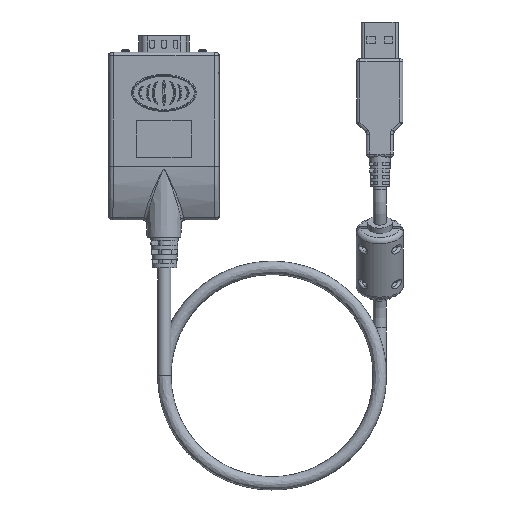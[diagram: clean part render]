
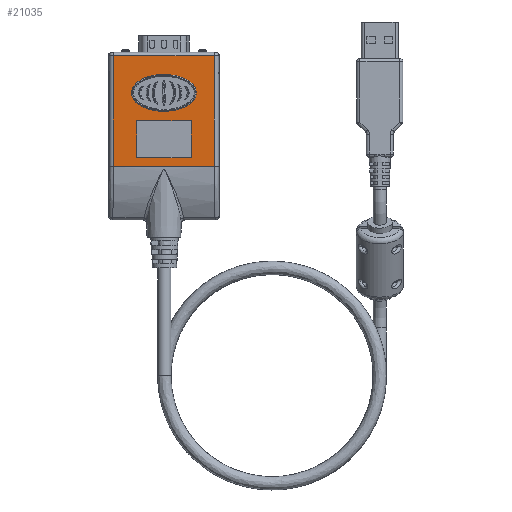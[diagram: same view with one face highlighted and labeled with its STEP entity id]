
A CAD part, front view. The second image highlights one B-rep face of the part: STEP entity #21035.
In plain terms, the highlighted planar face has unit normal (0, -0.999, -0.043).
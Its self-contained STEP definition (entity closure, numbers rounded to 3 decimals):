
#537=ELLIPSE('',#23025,10.5,6.);
#692=FACE_BOUND('',#3757,.T.);
#693=FACE_BOUND('',#3758,.T.);
#1240=PLANE('',#23027);
#2424=FACE_OUTER_BOUND('',#3756,.T.);
#3756=EDGE_LOOP('',(#19152,#19153,#19154,#19155));
#3757=EDGE_LOOP('',(#19156,#19157,#19158,#19159));
#3758=EDGE_LOOP('',(#19160));
#6483=LINE('',#45470,#8002);
#6487=LINE('',#45478,#8006);
#6490=LINE('',#45484,#8009);
#6493=LINE('',#45489,#8012);
#6595=LINE('',#48619,#8114);
#6596=LINE('',#48621,#8115);
#6597=LINE('',#48623,#8116);
#6598=LINE('',#48624,#8117);
#8002=VECTOR('',#27923,10.);
#8006=VECTOR('',#27929,10.);
#8009=VECTOR('',#27934,10.);
#8012=VECTOR('',#27939,10.);
#8114=VECTOR('',#28359,10.);
#8115=VECTOR('',#28360,10.);
#8116=VECTOR('',#28361,10.);
#8117=VECTOR('',#28362,10.);
#9943=VERTEX_POINT('',#45468);
#9944=VERTEX_POINT('',#45469);
#9947=VERTEX_POINT('',#45477);
#9949=VERTEX_POINT('',#45483);
#10130=VERTEX_POINT('',#47985);
#10139=VERTEX_POINT('',#48617);
#10140=VERTEX_POINT('',#48618);
#10141=VERTEX_POINT('',#48620);
#10142=VERTEX_POINT('',#48622);
#12850=EDGE_CURVE('',#9943,#9944,#6483,.T.);
#12854=EDGE_CURVE('',#9947,#9943,#6487,.T.);
#12857=EDGE_CURVE('',#9949,#9947,#6490,.T.);
#12860=EDGE_CURVE('',#9944,#9949,#6493,.T.);
#13154=EDGE_CURVE('',#10130,#10130,#537,.T.);
#13177=EDGE_CURVE('',#10139,#10140,#6595,.T.);
#13178=EDGE_CURVE('',#10141,#10139,#6596,.T.);
#13179=EDGE_CURVE('',#10142,#10141,#6597,.T.);
#13180=EDGE_CURVE('',#10140,#10142,#6598,.T.);
#19152=ORIENTED_EDGE('',*,*,#13177,.F.);
#19153=ORIENTED_EDGE('',*,*,#13178,.F.);
#19154=ORIENTED_EDGE('',*,*,#13179,.F.);
#19155=ORIENTED_EDGE('',*,*,#13180,.F.);
#19156=ORIENTED_EDGE('',*,*,#12850,.T.);
#19157=ORIENTED_EDGE('',*,*,#12860,.T.);
#19158=ORIENTED_EDGE('',*,*,#12857,.T.);
#19159=ORIENTED_EDGE('',*,*,#12854,.T.);
#19160=ORIENTED_EDGE('',*,*,#13154,.T.);
#21035=ADVANCED_FACE('',(#2424,#692,#693),#1240,.F.);
#23025=AXIS2_PLACEMENT_3D('',#47987,#28353,#28354);
#23027=AXIS2_PLACEMENT_3D('',#48616,#28357,#28358);
#27923=DIRECTION('',(0.,0.043,-0.999));
#27929=DIRECTION('',(1.,0.,0.));
#27934=DIRECTION('',(0.,-0.043,0.999));
#27939=DIRECTION('',(-1.,0.,0.));
#28353=DIRECTION('center_axis',(0.,0.999,
0.043));
#28354=DIRECTION('ref_axis',(-1.,0.,0.));
#28357=DIRECTION('center_axis',(0.,0.999,
0.043));
#28358=DIRECTION('ref_axis',(0.,0.043,-0.999));
#28359=DIRECTION('',(1.,0.,0.));
#28360=DIRECTION('',(0.002,-0.043,0.999));
#28361=DIRECTION('',(-1.,0.,0.));
#28362=DIRECTION('',(0.002,0.043,-0.999));
#45468=CARTESIAN_POINT('',(8.875,-7.141,-22.179));
#45469=CARTESIAN_POINT('',(8.875,-6.622,-34.168));
#45470=CARTESIAN_POINT('',(8.875,-7.62,-11.09));
#45477=CARTESIAN_POINT('',(-8.875,-7.141,-22.179));
#45478=CARTESIAN_POINT('',(-4.438,-7.141,-22.179));
#45483=CARTESIAN_POINT('',(-8.875,-6.622,-34.168));
#45484=CARTESIAN_POINT('',(-8.875,-7.361,-17.084));
#45489=CARTESIAN_POINT('',(4.437,-6.622,-34.168));
#47985=CARTESIAN_POINT('',(10.5,-7.532,-13.138));
#47987=CARTESIAN_POINT('Origin',(0.,-7.532,
-13.138));
#48616=CARTESIAN_POINT('Origin',(0.,-8.1,0.));
#48617=CARTESIAN_POINT('',(-16.367,-8.055,-1.043));
#48618=CARTESIAN_POINT('',(16.367,-8.055,-1.043));
#48619=CARTESIAN_POINT('',(0.,-8.055,-1.043));
#48620=CARTESIAN_POINT('',(-16.421,-6.5,-37.));
#48621=CARTESIAN_POINT('',(-16.365,-8.093,-0.164));
#48622=CARTESIAN_POINT('',(16.421,-6.5,-37.));
#48623=CARTESIAN_POINT('',(0.,-6.5,-37.));
#48624=CARTESIAN_POINT('',(16.365,-8.1,0.011));
